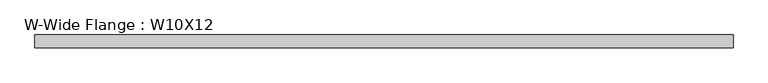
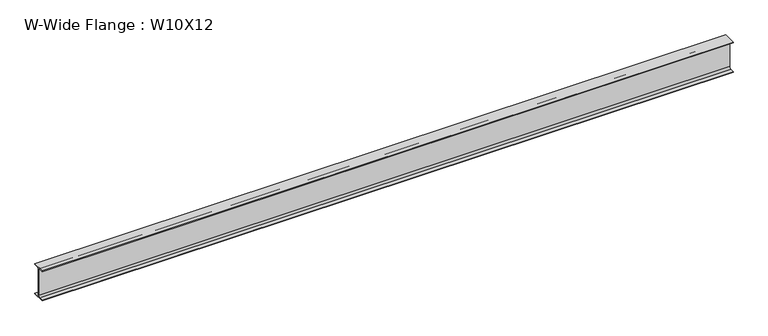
"""IFC4 building model written with IfcOpenShell, lengths in millimetres: beam geometry, W-Wide Flange : W10X12."""

from ifc_helpers import new_model, si_unit, point, frame, frame_2d, origin, place, context, project, spatial, polyline, circle_curve, trimmed, segment, composite_curve, outline, extrude, source, transform, mapped, element, save


def w_wide_flange_w10x12_049afd95(model_context):
    return source(origin(), model_context, "Body", "SweptSolid", [
        extrude(outline(composite_curve([segment(polyline([(50.292, -120.015), (50.292, -125.349), (-50.292, -125.349), (-50.292, -120.015), (-16.129, -120.015)]), True, "CONTINUOUS"), segment(trimmed(circle_curve(frame_2d((-16.129, -106.299)), 13.716), [point((-16.129, -120.015))], [point((-2.413, -106.299))], True, "CARTESIAN"), True, "CONTINUOUS"), segment(polyline([(-2.413, -106.299), (-2.413, 106.299)]), True, "CONTINUOUS"), segment(trimmed(circle_curve(frame_2d((-16.129, 106.299)), 13.716), [point((-2.413, 106.299))], [point((-16.129, 120.015))], True, "CARTESIAN"), True, "CONTINUOUS"), segment(polyline([(-16.129, 120.015), (-50.292, 120.015), (-50.292, 125.349), (50.292, 125.349), (50.292, 120.015), (16.129, 120.015)]), True, "CONTINUOUS"), segment(trimmed(circle_curve(frame_2d((16.129, 106.299)), 13.716), [point((16.129, 120.015))], [point((2.413, 106.299))], True, "CARTESIAN"), True, "CONTINUOUS"), segment(polyline([(2.413, 106.299), (2.413, -106.299)]), True, "CONTINUOUS"), segment(trimmed(circle_curve(frame_2d((16.129, -106.299)), 13.716), [point((2.413, -106.299))], [point((16.129, -120.015))], True, "CARTESIAN"), True, "CONTINUOUS"), segment(polyline([(16.129, -120.015), (50.292, -120.015)]), True, "CONTINUOUS")], self_intersect=False)), frame((-2731.8335, 0.0, 0.0), z_axis=(1.0, 0.0, 0.0), x_axis=(0.0, 1.0, 0.0)), (0.0, 0.0, 1.0), 5463.667),
    ])


if __name__ == "__main__":
    model = new_model("IFC4")
    model_context = context("Model", 3, world=origin())
    ifc_project = project(units=[si_unit("LENGTHUNIT", "METRE", prefix="MILLI")], contexts=[model_context])
    site = spatial("IfcSite", under=ifc_project)
    building = spatial("IfcBuilding", under=site)
    placement = place(None, origin())
    w_wide_flange_w10x12_shape = w_wide_flange_w10x12_049afd95(model_context)
    element("IfcBeam", 1, ObjectType="W-Wide Flange : W10X12", at=placement, inside=building, context=model_context, shape_type="MappedRepresentation", body=[
        mapped(w_wide_flange_w10x12_shape, transform((0.0, 0.0, 0.0), x_axis=(1.0, 0.0, 0.0), y_axis=(0.0, 1.0, 0.0), z_axis=(0.0, 0.0, 1.0))),
    ])
    save(model, "model.ifc")
